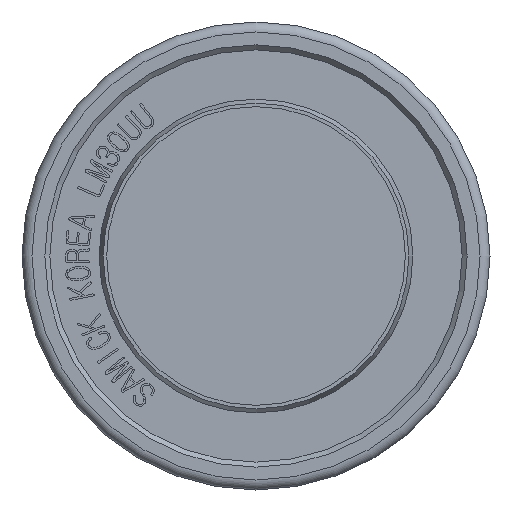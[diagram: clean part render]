
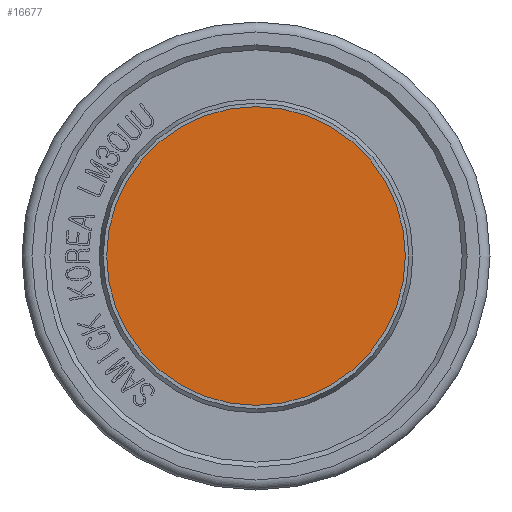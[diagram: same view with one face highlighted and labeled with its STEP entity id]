
A CAD part, front view. The second image highlights one B-rep face of the part: STEP entity #16677.
In plain terms, the highlighted planar face has unit normal (0, -1, 0).
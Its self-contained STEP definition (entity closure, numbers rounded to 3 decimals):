
#41=CIRCLE('',#16944,15.);
#345=PLANE('',#16946);
#1183=FACE_OUTER_BOUND('',#2080,.T.);
#2080=EDGE_LOOP('',(#14298));
#7160=VERTEX_POINT('',#29009);
#9553=EDGE_CURVE('',#7160,#7160,#41,.T.);
#14298=ORIENTED_EDGE('',*,*,#9553,.F.);
#16677=ADVANCED_FACE('',(#1183),#345,.T.);
#16944=AXIS2_PLACEMENT_3D('',#29011,#18567,#18568);
#16946=AXIS2_PLACEMENT_3D('',#29013,#18571,#18572);
#18567=DIRECTION('center_axis',(0.,1.,0.));
#18568=DIRECTION('ref_axis',(1.,0.,0.));
#18571=DIRECTION('center_axis',(0.,-1.,0.));
#18572=DIRECTION('ref_axis',(0.,0.,-1.));
#29009=CARTESIAN_POINT('',(-15.,-59.,0.));
#29011=CARTESIAN_POINT('Origin',(0.,-59.,0.));
#29013=CARTESIAN_POINT('Origin',(0.,-59.,0.));
